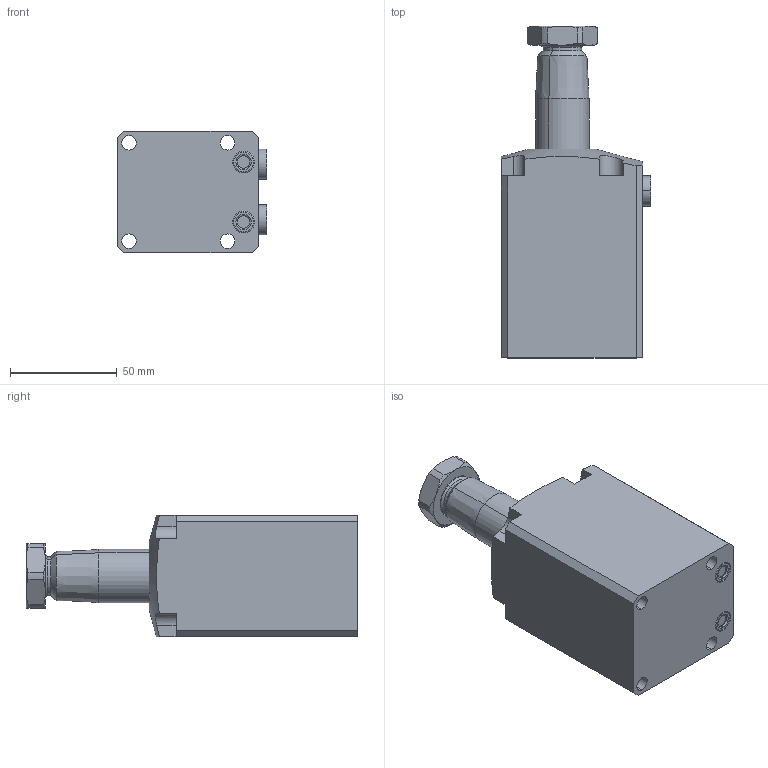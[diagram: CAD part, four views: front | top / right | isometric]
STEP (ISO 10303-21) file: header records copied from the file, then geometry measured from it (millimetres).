
FILE_DESCRIPTION(/* description */ (''),/* implementation_level */ '2;1');
FILE_NAME(/* name */ 'BRC06-RN60.stp',/* time_stamp */ '2025-01-05T08:41:10+08:00',/* author */ (''),/* organization */ (''),/* preprocessor_version */ 'ST-DEVELOPER v16.7',/* originating_system */ 'SIEMENS PLM Software NX 12.0',/* authorisation */ '');
FILE_SCHEMA (('AUTOMOTIVE_DESIGN { 1 0 10303 214 3 1 1 1 }'));
Length unit declared in the file: millimetre
Products named in the file (5): BRC06-RN60-3; BRC06-RN60-4; BRC06-RN60-2; BRC06-RN60-1; BRC06-RN60_stp
Assembly tree (5 placements, depth 2):
  BRC06-RN60_stp
    BRC06-RN60-1
    BRC06-RN60-2
    BRC06-RN60-4  x2
    BRC06-RN60-3
Bounding box: 69.8 x 155.1 x 57 mm (x, y, z)
Volume: 359483.1 mm3; surface area: 48882.4 mm2
Topology: 7 solids, 7 shells, 176 faces, 401 edges, 248 vertices
Faces by surface type: plane 68, cylinder 57, cone 34, torus 16, sphere 1
Full cylindrical faces by diameter (mm): 8.5 x2
Entity records: 4660 total; most frequent: CARTESIAN_POINT 957, DIRECTION 778, ORIENTED_EDGE 712, EDGE_CURVE 356, AXIS2_PLACEMENT_3D 313, VERTEX_POINT 222, EDGE_LOOP 180, ADVANCED_FACE 156
